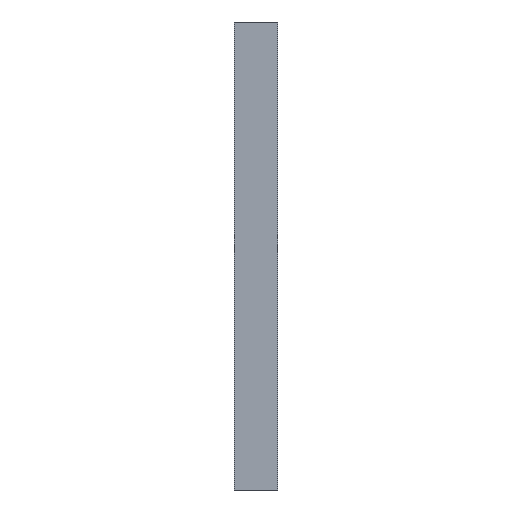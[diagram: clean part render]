
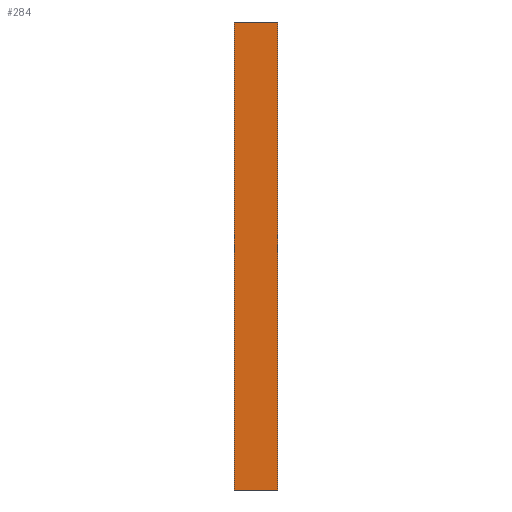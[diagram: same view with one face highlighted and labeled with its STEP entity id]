
A CAD part, left-side view. The second image highlights one B-rep face of the part: STEP entity #284.
In plain terms, the highlighted planar face has unit normal (-1, 0, 0).
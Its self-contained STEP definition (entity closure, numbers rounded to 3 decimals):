
#21 = EDGE_CURVE('',#22,#24,#26,.T.);
#22 = VERTEX_POINT('',#23);
#23 = CARTESIAN_POINT('',(-37.5,-75.,0.));
#24 = VERTEX_POINT('',#25);
#25 = CARTESIAN_POINT('',(-37.5,-75.,1620.));
#26 = SURFACE_CURVE('',#27,(#31,#43),.PCURVE_S1.);
#27 = LINE('',#28,#29);
#28 = CARTESIAN_POINT('',(-37.5,-75.,0.));
#29 = VECTOR('',#30,1.);
#30 = DIRECTION('',(0.,0.,1.));
#31 = PCURVE('',#32,#37);
#32 = PLANE('',#33);
#33 = AXIS2_PLACEMENT_3D('',#34,#35,#36);
#34 = CARTESIAN_POINT('',(-37.5,-75.,0.));
#35 = DIRECTION('',(0.,1.,0.));
#36 = DIRECTION('',(1.,0.,0.));
#37 = DEFINITIONAL_REPRESENTATION('',(#38),#42);
#38 = LINE('',#39,#40);
#39 = CARTESIAN_POINT('',(0.,0.));
#40 = VECTOR('',#41,1.);
#41 = DIRECTION('',(0.,-1.));
#42 = ( GEOMETRIC_REPRESENTATION_CONTEXT(2) 
PARAMETRIC_REPRESENTATION_CONTEXT() REPRESENTATION_CONTEXT('2D SPACE',''
  ) );
#43 = PCURVE('',#44,#49);
#44 = PLANE('',#45);
#45 = AXIS2_PLACEMENT_3D('',#46,#47,#48);
#46 = CARTESIAN_POINT('',(-37.5,75.,0.));
#47 = DIRECTION('',(1.,0.,-0.));
#48 = DIRECTION('',(0.,-1.,0.));
#49 = DEFINITIONAL_REPRESENTATION('',(#50),#54);
#50 = LINE('',#51,#52);
#51 = CARTESIAN_POINT('',(150.,0.));
#52 = VECTOR('',#53,1.);
#53 = DIRECTION('',(0.,-1.));
#54 = ( GEOMETRIC_REPRESENTATION_CONTEXT(2) 
PARAMETRIC_REPRESENTATION_CONTEXT() REPRESENTATION_CONTEXT('2D SPACE',''
  ) );
#72 = PLANE('',#73);
#73 = AXIS2_PLACEMENT_3D('',#74,#75,#76);
#74 = CARTESIAN_POINT('',(0.,0.,1620.));
#75 = DIRECTION('',(0.,0.,1.));
#76 = DIRECTION('',(1.,0.,-0.));
#126 = PLANE('',#127);
#127 = AXIS2_PLACEMENT_3D('',#128,#129,#130);
#128 = CARTESIAN_POINT('',(0.,0.,0.));
#129 = DIRECTION('',(0.,0.,1.));
#130 = DIRECTION('',(1.,0.,-0.));
#181 = PLANE('',#182);
#182 = AXIS2_PLACEMENT_3D('',#183,#184,#185);
#183 = CARTESIAN_POINT('',(37.5,75.,0.));
#184 = DIRECTION('',(0.,-1.,0.));
#185 = DIRECTION('',(-1.,0.,0.));
#219 = VERTEX_POINT('',#220);
#220 = CARTESIAN_POINT('',(-37.5,75.,1620.));
#241 = EDGE_CURVE('',#242,#219,#244,.T.);
#242 = VERTEX_POINT('',#243);
#243 = CARTESIAN_POINT('',(-37.5,75.,0.));
#244 = SURFACE_CURVE('',#245,(#249,#256),.PCURVE_S1.);
#245 = LINE('',#246,#247);
#246 = CARTESIAN_POINT('',(-37.5,75.,0.));
#247 = VECTOR('',#248,1.);
#248 = DIRECTION('',(0.,0.,1.));
#249 = PCURVE('',#181,#250);
#250 = DEFINITIONAL_REPRESENTATION('',(#251),#255);
#251 = LINE('',#252,#253);
#252 = CARTESIAN_POINT('',(75.,0.));
#253 = VECTOR('',#254,1.);
#254 = DIRECTION('',(0.,-1.));
#255 = ( GEOMETRIC_REPRESENTATION_CONTEXT(2) 
PARAMETRIC_REPRESENTATION_CONTEXT() REPRESENTATION_CONTEXT('2D SPACE',''
  ) );
#256 = PCURVE('',#44,#257);
#257 = DEFINITIONAL_REPRESENTATION('',(#258),#262);
#258 = LINE('',#259,#260);
#259 = CARTESIAN_POINT('',(0.,0.));
#260 = VECTOR('',#261,1.);
#261 = DIRECTION('',(0.,-1.));
#262 = ( GEOMETRIC_REPRESENTATION_CONTEXT(2) 
PARAMETRIC_REPRESENTATION_CONTEXT() REPRESENTATION_CONTEXT('2D SPACE',''
  ) );
#284 = ADVANCED_FACE('',(#285),#44,.F.);
#285 = FACE_BOUND('',#286,.F.);
#286 = EDGE_LOOP('',(#287,#288,#309,#310));
#287 = ORIENTED_EDGE('',*,*,#241,.T.);
#288 = ORIENTED_EDGE('',*,*,#289,.T.);
#289 = EDGE_CURVE('',#219,#24,#290,.T.);
#290 = SURFACE_CURVE('',#291,(#295,#302),.PCURVE_S1.);
#291 = LINE('',#292,#293);
#292 = CARTESIAN_POINT('',(-37.5,75.,1620.));
#293 = VECTOR('',#294,1.);
#294 = DIRECTION('',(0.,-1.,0.));
#295 = PCURVE('',#44,#296);
#296 = DEFINITIONAL_REPRESENTATION('',(#297),#301);
#297 = LINE('',#298,#299);
#298 = CARTESIAN_POINT('',(0.,-1620.));
#299 = VECTOR('',#300,1.);
#300 = DIRECTION('',(1.,0.));
#301 = ( GEOMETRIC_REPRESENTATION_CONTEXT(2) 
PARAMETRIC_REPRESENTATION_CONTEXT() REPRESENTATION_CONTEXT('2D SPACE',''
  ) );
#302 = PCURVE('',#72,#303);
#303 = DEFINITIONAL_REPRESENTATION('',(#304),#308);
#304 = LINE('',#305,#306);
#305 = CARTESIAN_POINT('',(-37.5,75.));
#306 = VECTOR('',#307,1.);
#307 = DIRECTION('',(0.,-1.));
#308 = ( GEOMETRIC_REPRESENTATION_CONTEXT(2) 
PARAMETRIC_REPRESENTATION_CONTEXT() REPRESENTATION_CONTEXT('2D SPACE',''
  ) );
#309 = ORIENTED_EDGE('',*,*,#21,.F.);
#310 = ORIENTED_EDGE('',*,*,#311,.F.);
#311 = EDGE_CURVE('',#242,#22,#312,.T.);
#312 = SURFACE_CURVE('',#313,(#317,#324),.PCURVE_S1.);
#313 = LINE('',#314,#315);
#314 = CARTESIAN_POINT('',(-37.5,75.,0.));
#315 = VECTOR('',#316,1.);
#316 = DIRECTION('',(0.,-1.,0.));
#317 = PCURVE('',#44,#318);
#318 = DEFINITIONAL_REPRESENTATION('',(#319),#323);
#319 = LINE('',#320,#321);
#320 = CARTESIAN_POINT('',(0.,0.));
#321 = VECTOR('',#322,1.);
#322 = DIRECTION('',(1.,0.));
#323 = ( GEOMETRIC_REPRESENTATION_CONTEXT(2) 
PARAMETRIC_REPRESENTATION_CONTEXT() REPRESENTATION_CONTEXT('2D SPACE',''
  ) );
#324 = PCURVE('',#126,#325);
#325 = DEFINITIONAL_REPRESENTATION('',(#326),#330);
#326 = LINE('',#327,#328);
#327 = CARTESIAN_POINT('',(-37.5,75.));
#328 = VECTOR('',#329,1.);
#329 = DIRECTION('',(0.,-1.));
#330 = ( GEOMETRIC_REPRESENTATION_CONTEXT(2) 
PARAMETRIC_REPRESENTATION_CONTEXT() REPRESENTATION_CONTEXT('2D SPACE',''
  ) );
